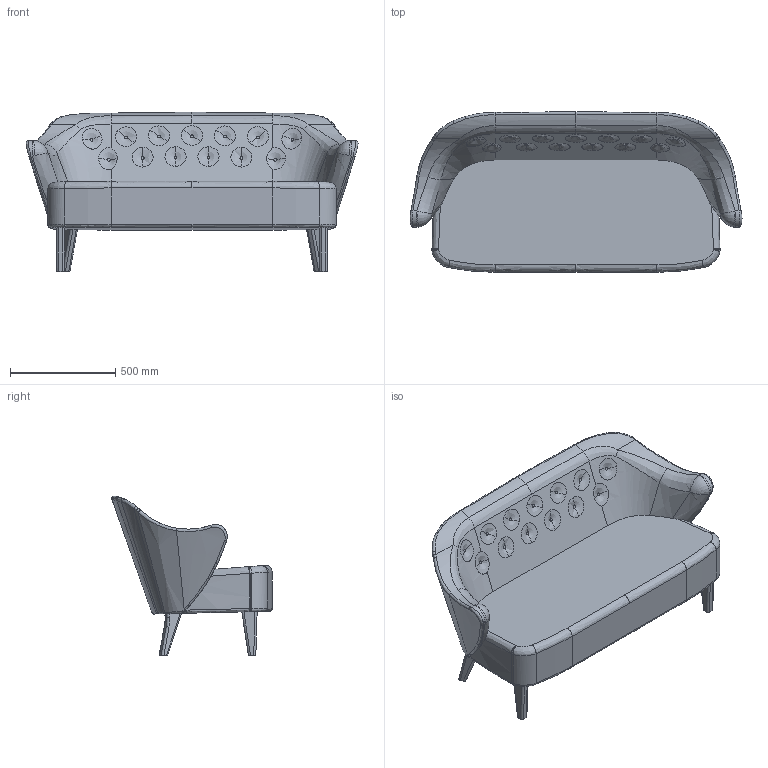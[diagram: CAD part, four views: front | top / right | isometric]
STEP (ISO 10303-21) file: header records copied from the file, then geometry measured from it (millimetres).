
FILE_DESCRIPTION(/* description */ (''),/* implementation_level */ '2;1');
FILE_NAME(/* name */ 'Ingeborg Sofa',/* time_stamp */ '2023-12-01T11:32:54+01:00',/* author */ (''),/* organization */ (''),/* preprocessor_version */ 'ST-DEVELOPER v16.5',/* originating_system */ 'Rhino 7.31',/* authorisation */ '');
FILE_SCHEMA (('AUTOMOTIVE_DESIGN'));
Length unit declared in the file: millimetre
Products named in the file (1): Document
Bounding box: 1578.58 x 762.79 x 758.63 mm (x, y, z)
Volume: 221402632.7 mm3; surface area: 3782561.8 mm2
Topology: 5 solids, 5 shells, 261 faces, 620 edges, 378 vertices
Faces by surface type: bspline 154, cylinder 62, plane 45
Entity records: 14781 total; most frequent: CARTESIAN_POINT 10838, ORIENTED_EDGE 1236, EDGE_CURVE 618, B_SPLINE_CURVE_WITH_KNOTS 381, VERTEX_POINT 378, EDGE_LOOP 272, ADVANCED_FACE 261, FACE_OUTER_BOUND 261
